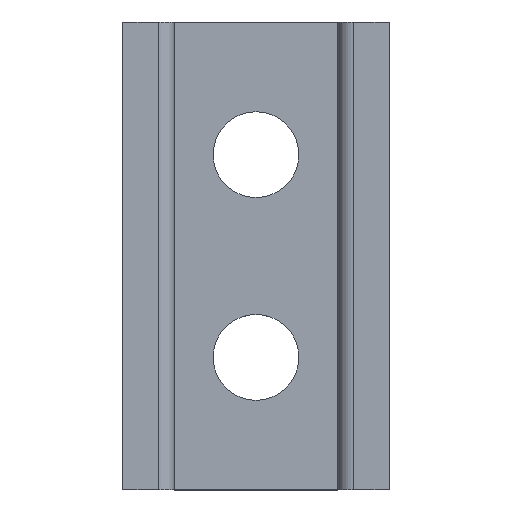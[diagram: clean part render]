
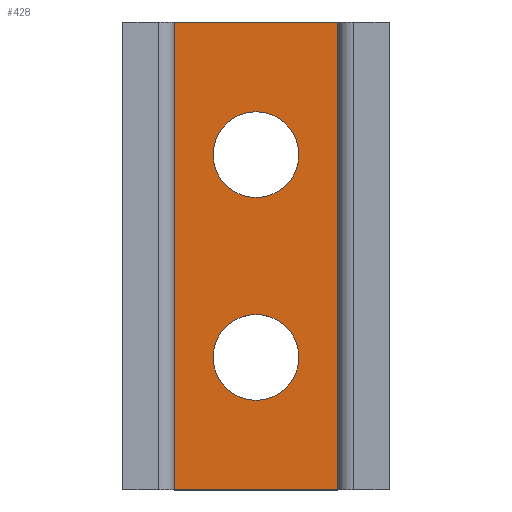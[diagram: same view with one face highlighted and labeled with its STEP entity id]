
A CAD part, top view. The second image highlights one B-rep face of the part: STEP entity #428.
In plain terms, the highlighted planar face has unit normal (0, 0, 1).
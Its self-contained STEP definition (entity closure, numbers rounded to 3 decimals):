
#1=CARTESIAN_POINT('',(0.,-6.5,0.));
#2=DIRECTION('',(0.,0.,-1.));
#3=DIRECTION('',(0.,-1.,0.));
#4=AXIS2_PLACEMENT_3D('',#1,#2,#3);
#6=CARTESIAN_POINT('',(0.,-6.5,0.));
#7=DIRECTION('',(0.,0.,-1.));
#8=DIRECTION('',(0.,1.,0.));
#9=AXIS2_PLACEMENT_3D('',#6,#7,#8);
#11=CARTESIAN_POINT('',(0.,6.5,0.));
#12=DIRECTION('',(0.,0.,-1.));
#13=DIRECTION('',(0.,-1.,0.));
#14=AXIS2_PLACEMENT_3D('',#11,#12,#13);
#16=CARTESIAN_POINT('',(0.,6.5,0.));
#17=DIRECTION('',(0.,0.,-1.));
#18=DIRECTION('',(0.,1.,0.));
#19=AXIS2_PLACEMENT_3D('',#16,#17,#18);
#21=DIRECTION('',(0.,1.,0.));
#22=VECTOR('',#21,30.);
#23=CARTESIAN_POINT('',(5.25,-15.,0.));
#24=LINE('',#23,#22);
#63=DIRECTION('',(1.,0.,0.));
#64=VECTOR('',#63,10.5);
#65=CARTESIAN_POINT('',(-5.25,15.,0.));
#66=LINE('',#65,#64);
#157=DIRECTION('',(0.,1.,0.));
#158=VECTOR('',#157,30.);
#159=CARTESIAN_POINT('',(-5.25,-15.,0.));
#160=LINE('',#159,#158);
#177=DIRECTION('',(1.,0.,0.));
#178=VECTOR('',#177,10.5);
#179=CARTESIAN_POINT('',(-5.25,-15.,0.));
#180=LINE('',#179,#178);
#329=CARTESIAN_POINT('',(5.25,15.,0.));
#330=VERTEX_POINT('',#329);
#331=CARTESIAN_POINT('',(5.25,-15.,0.));
#332=VERTEX_POINT('',#331);
#354=CARTESIAN_POINT('',(-5.25,15.,0.));
#356=VERTEX_POINT('',#354);
#379=CARTESIAN_POINT('',(-5.25,-15.,0.));
#380=VERTEX_POINT('',#379);
#385=CARTESIAN_POINT('',(0.,-9.25,0.));
#386=CARTESIAN_POINT('',(0.,-3.75,0.));
#387=VERTEX_POINT('',#385);
#388=VERTEX_POINT('',#386);
#389=CARTESIAN_POINT('',(0.,3.75,0.));
#390=CARTESIAN_POINT('',(0.,9.25,0.));
#391=VERTEX_POINT('',#389);
#392=VERTEX_POINT('',#390);
#401=CARTESIAN_POINT('',(-6.25,-15.,0.));
#402=DIRECTION('',(0.,0.,1.));
#403=DIRECTION('',(1.,0.,0.));
#404=AXIS2_PLACEMENT_3D('',#401,#402,#403);
#405=PLANE('',#404);
#407=ORIENTED_EDGE('',*,*,#406,.F.);
#409=ORIENTED_EDGE('',*,*,#408,.F.);
#411=ORIENTED_EDGE('',*,*,#410,.T.);
#413=ORIENTED_EDGE('',*,*,#412,.T.);
#414=EDGE_LOOP('',(#407,#409,#411,#413));
#415=FACE_OUTER_BOUND('',#414,.F.);
#417=ORIENTED_EDGE('',*,*,#416,.F.);
#419=ORIENTED_EDGE('',*,*,#418,.F.);
#420=EDGE_LOOP('',(#417,#419));
#421=FACE_BOUND('',#420,.F.);
#423=ORIENTED_EDGE('',*,*,#422,.F.);
#425=ORIENTED_EDGE('',*,*,#424,.F.);
#426=EDGE_LOOP('',(#423,#425));
#427=FACE_BOUND('',#426,.F.);
#428=ADVANCED_FACE('',(#415,#421,#427),#405,.T.);
#5=CIRCLE('',#4,2.75);
#10=CIRCLE('',#9,2.75);
#15=CIRCLE('',#14,2.75);
#20=CIRCLE('',#19,2.75);
#406=EDGE_CURVE('',#332,#330,#24,.T.);
#408=EDGE_CURVE('',#380,#332,#180,.T.);
#410=EDGE_CURVE('',#380,#356,#160,.T.);
#412=EDGE_CURVE('',#356,#330,#66,.T.);
#416=EDGE_CURVE('',#387,#388,#5,.T.);
#418=EDGE_CURVE('',#388,#387,#10,.T.);
#422=EDGE_CURVE('',#391,#392,#15,.T.);
#424=EDGE_CURVE('',#392,#391,#20,.T.);
